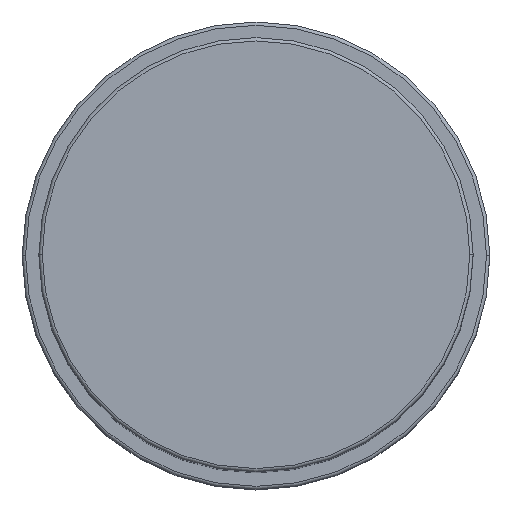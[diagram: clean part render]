
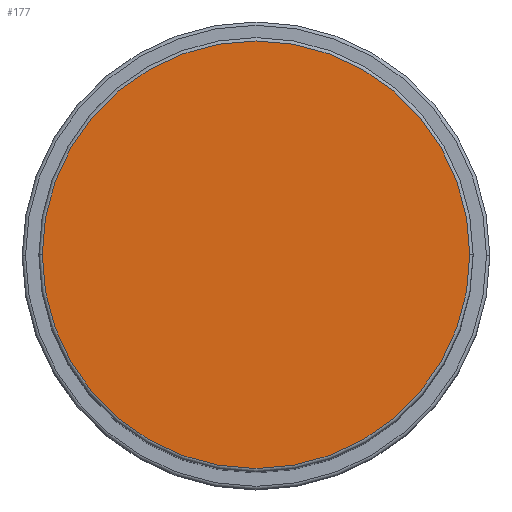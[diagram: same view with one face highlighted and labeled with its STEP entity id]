
A CAD part, top view. The second image highlights one B-rep face of the part: STEP entity #177.
In plain terms, the highlighted planar face has unit normal (0, 0, 1).
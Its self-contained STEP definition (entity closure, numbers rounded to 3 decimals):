
#122 = CARTESIAN_POINT ( 'NONE',  ( -32., 0., 122. ) ) ;
#177 = ADVANCED_FACE ( 'NONE', ( #474 ), #457, .T. ) ;
#257 = AXIS2_PLACEMENT_3D ( 'NONE', #364, #1503, #484 ) ;
#291 = ORIENTED_EDGE ( 'NONE', *, *, #1641, .T. ) ;
#351 = CARTESIAN_POINT ( 'NONE',  ( 0., 0., 122. ) ) ;
#364 = CARTESIAN_POINT ( 'NONE',  ( 0., 0., 122. ) ) ;
#457 = PLANE ( 'NONE',  #1268 ) ;
#474 = FACE_OUTER_BOUND ( 'NONE', #868, .T. ) ;
#484 = DIRECTION ( 'NONE',  ( 1., 0., 0. ) ) ;
#581 = DIRECTION ( 'NONE',  ( 0., 0., 1. ) ) ;
#595 = CARTESIAN_POINT ( 'NONE',  ( 0., 0., 122. ) ) ;
#620 = AXIS2_PLACEMENT_3D ( 'NONE', #351, #1373, #1000 ) ;
#702 = DIRECTION ( 'NONE',  ( 1., 0., 0. ) ) ;
#703 = CARTESIAN_POINT ( 'NONE',  ( 32., 0., 122. ) ) ;
#704 = EDGE_CURVE ( 'NONE', #1175, #798, #713, .T. ) ;
#713 = CIRCLE ( 'NONE', #620, 32. ) ;
#798 = VERTEX_POINT ( 'NONE', #122 ) ;
#868 = EDGE_LOOP ( 'NONE', ( #1662, #291 ) ) ;
#1000 = DIRECTION ( 'NONE',  ( 1., 0., 0. ) ) ;
#1175 = VERTEX_POINT ( 'NONE', #703 ) ;
#1268 = AXIS2_PLACEMENT_3D ( 'NONE', #595, #581, #702 ) ;
#1373 = DIRECTION ( 'NONE',  ( 0., 0., 1. ) ) ;
#1503 = DIRECTION ( 'NONE',  ( 0., 0., 1. ) ) ;
#1565 = CIRCLE ( 'NONE', #257, 32. ) ;
#1641 = EDGE_CURVE ( 'NONE', #798, #1175, #1565, .T. ) ;
#1662 = ORIENTED_EDGE ( 'NONE', *, *, #704, .T. ) ;
